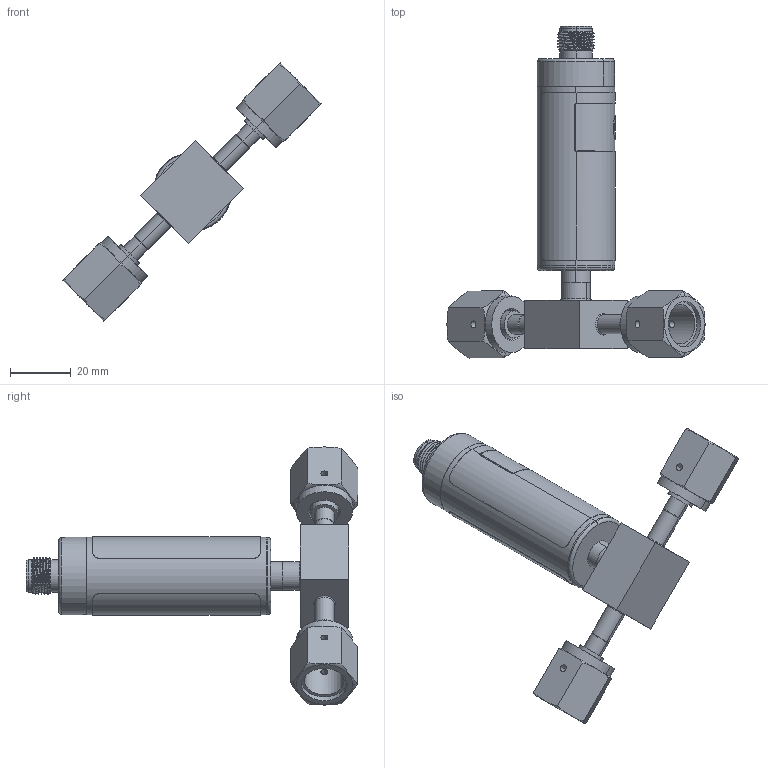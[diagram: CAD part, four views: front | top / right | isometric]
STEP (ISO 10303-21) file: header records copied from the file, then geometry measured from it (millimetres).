
FILE_DESCRIPTION (( 'STEP AP214' ), '1' );
FILE_NAME ('GSF-XXXXXX-Q-XXX-SF.STEP', '2025-06-23T15:07:31', ( '' ), ( '' ), 'SwSTEP 2.0', 'SolidWorks 2023', '' );
FILE_SCHEMA (( 'AUTOMOTIVE_DESIGN' ));
Length unit declared in the file: inch
Products named in the file (6): GS 2; 0136103_318Z136; GSx Body_Integrated Connector; 333125_A333125001; GSF-XXXXXX-Q-XXX-SF; ME131190
Assembly tree (7 placements, depth 2):
  GSF-XXXXXX-Q-XXX-SF
    GSx Body_Integrated Connector
    333125_A333125001
    0136103_318Z136  x2
    ME131190  x2
    GS 2
Bounding box: 84.75 x 108.96 x 84.75 mm (x, y, z)
Volume: 29386.5 mm3; surface area: 24345.7 mm2
Topology: 10 solids, 10 shells, 366 faces, 860 edges, 537 vertices
Faces by surface type: cylinder 131, plane 100, cone 54, bspline 41, torus 40
Entity records: 13809 total; most frequent: CARTESIAN_POINT 6879, ORIENTED_EDGE 1412, DIRECTION 1358, EDGE_CURVE 706, AXIS2_PLACEMENT_3D 566, VERTEX_POINT 449, EDGE_LOOP 345, ADVANCED_FACE 299
